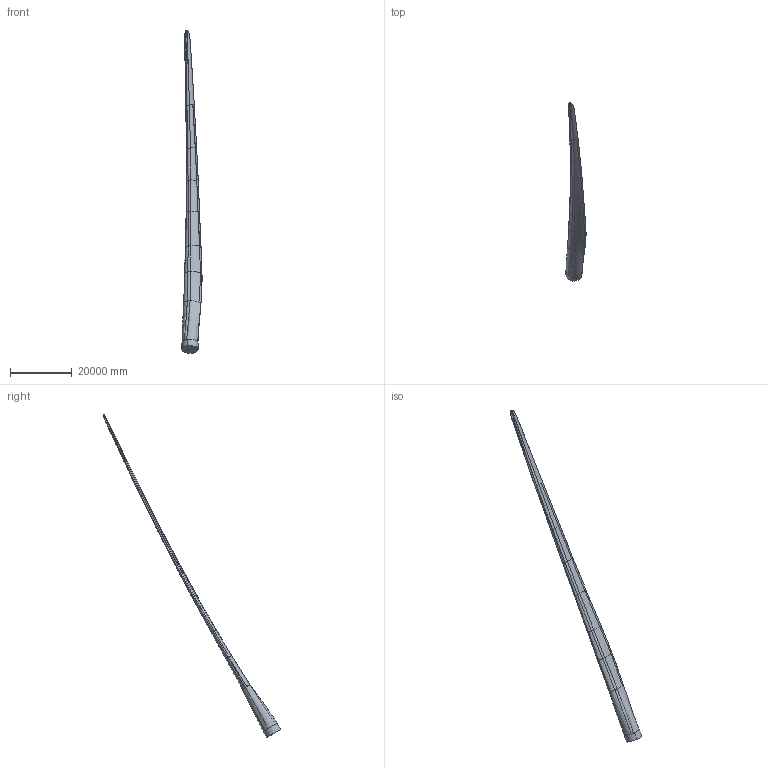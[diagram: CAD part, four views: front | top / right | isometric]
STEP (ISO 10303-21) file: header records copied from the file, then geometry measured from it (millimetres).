
FILE_DESCRIPTION (( 'STEP AP214' ), '1' );
FILE_NAME ('BLADE_SHELL.STEP', '2021-01-31T21:21:53', ( 'Packager' ), ( '' ), 'SwSTEP 2.0', 'SolidWorks 2019', '' );
FILE_SCHEMA (( 'AUTOMOTIVE_DESIGN' ));
Length unit declared in the file: millimetre
Products named in the file (2): BLADE_SHELL
Bounding box: 6481.67 x 57517.75 x 104581.64 mm (x, y, z)
Volume: 617941131862.1 mm3; surface area: 1123462502 mm2
Topology: 1 solids, 1 shells, 87 faces, 185 edges, 100 vertices
Faces by surface type: bspline 80, cylinder 4, plane 3
Entity records: 355536 total; most frequent: CARTESIAN_POINT 354272, ORIENTED_EDGE 370, EDGE_CURVE 185, B_SPLINE_CURVE_WITH_KNOTS 185, VERTEX_POINT 100, FACE_OUTER_BOUND 87, EDGE_LOOP 87, ADVANCED_FACE 87
